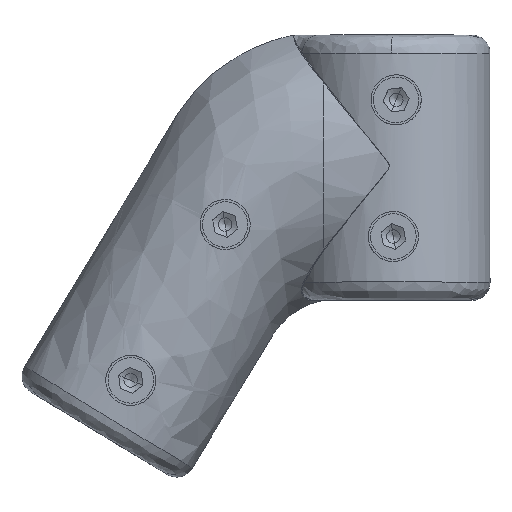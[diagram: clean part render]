
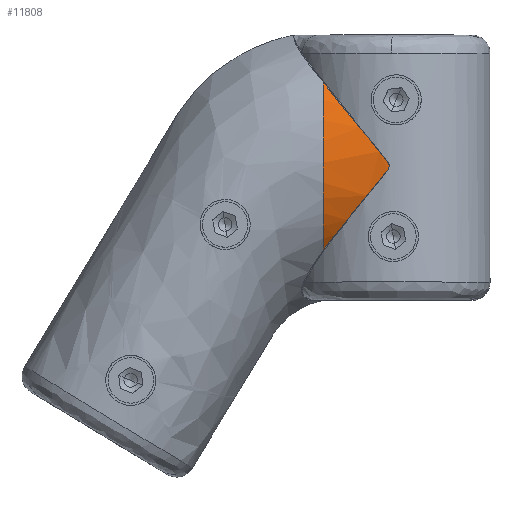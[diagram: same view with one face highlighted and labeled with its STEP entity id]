
A CAD part, top view. The second image highlights one B-rep face of the part: STEP entity #11808.
In plain terms, the highlighted free-form (B-spline) face has degree [3, 1] with [13, 2] control points.
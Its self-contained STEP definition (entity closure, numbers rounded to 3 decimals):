
#766 = CARTESIAN_POINT ( 'NONE',  ( -12.283, 87.694, -19.896 ) ) ;
#883 = CARTESIAN_POINT ( 'NONE',  ( -4.317, 87.883, -18.076 ) ) ;
#917 = CARTESIAN_POINT ( 'NONE',  ( -6.189, 89.882, -17.636 ) ) ;
#934 = CARTESIAN_POINT ( 'NONE',  ( -5.487, 85.949, -19.036 ) ) ;
#1108 = B_SPLINE_CURVE_WITH_KNOTS ( 'NONE', 3,
 ( #4477, #2037, #883, #934, #9243, #2138, #10279, #10435, #5649, #6848 ),
 .UNSPECIFIED., .F., .F.,
 ( 4, 3, 3, 4 ),
 ( 0., 0.243, 0.677, 1. ),
 .UNSPECIFIED. ) ;
#1233 = VERTEX_POINT ( 'NONE', #1428 ) ;
#1428 = CARTESIAN_POINT ( 'NONE',  ( -2.186, 91.404, -15.377 ) ) ;
#1838 = ORIENTED_EDGE ( 'NONE', *, *, #3225, .T. ) ;
#2037 = CARTESIAN_POINT ( 'NONE',  ( -3.206, 89.718, -16.844 ) ) ;
#2075 = CARTESIAN_POINT ( 'NONE',  ( -24.204, 83.227, -21.503 ) ) ;
#2122 = CARTESIAN_POINT ( 'NONE',  ( -3.979, 90.705, -16.513 ) ) ;
#2138 = CARTESIAN_POINT ( 'NONE',  ( -9.863, 78.718, -21.597 ) ) ;
#2247 = CARTESIAN_POINT ( 'NONE',  ( -30.065, 74.597, -19.72 ) ) ;
#2310 = CARTESIAN_POINT ( 'NONE',  ( -21.294, 59.829, -15.402 ) ) ;
#3215 = CARTESIAN_POINT ( 'NONE',  ( -9.49, 88.693, -18.919 ) ) ;
#3225 = EDGE_CURVE ( 'NONE', #1233, #13478, #1108, .T. ) ;
#3321 = CARTESIAN_POINT ( 'NONE',  ( -21.301, 59.824, -15.396 ) ) ;
#3444 = CARTESIAN_POINT ( 'NONE',  ( -31.598, 72.064, -18.67 ) ) ;
#3508 = CARTESIAN_POINT ( 'NONE',  ( -18.449, 93.792, -19.036 ) ) ;
#3561 = CARTESIAN_POINT ( 'NONE',  ( -15.51, 69.386, -20.812 ) ) ;
#3801 = CARTESIAN_POINT ( 'NONE',  ( -21.294, 59.829, -15.402 ) ) ;
#3833 = EDGE_LOOP ( 'NONE', ( #10025, #1838, #6979, #4229 ) ) ;
#3876 = B_SPLINE_SURFACE_WITH_KNOTS ( 'NONE', 3, 1, ( 
 ( #15186, #9256 ),
 ( #4534, #15346 ),
 ( #15401, #3444 ),
 ( #11757, #2247 ),
 ( #3561, #5659 ),
 ( #5723, #4644 ),
 ( #11862, #4687 ),
 ( #13989, #5773 ),
 ( #11711, #13000 ),
 ( #14096, #3508 ),
 ( #12943, #6952 ),
 ( #15292, #8052 ),
 ( #5820, #8155 ) ),
 .UNSPECIFIED., .F., .F., .F.,
 ( 4, 3, 3, 3, 4 ),
 ( 2, 2 ),
 ( 0.244, 0.365, 0.49, 0.659, 0.756 ),
 ( 0., 1.515 ),
 .UNSPECIFIED. ) ;
#4229 = ORIENTED_EDGE ( 'NONE', *, *, #7842, .T. ) ;
#4413 = CARTESIAN_POINT ( 'NONE',  ( -23.528, 76.16, -21.111 ) ) ;
#4477 = CARTESIAN_POINT ( 'NONE',  ( -2.186, 91.404, -15.377 ) ) ;
#4499 = CARTESIAN_POINT ( 'NONE',  ( -18.601, 64.278, -18.694 ) ) ;
#4534 = CARTESIAN_POINT ( 'NONE',  ( -20.084, 61.828, -17.161 ) ) ;
#4644 = CARTESIAN_POINT ( 'NONE',  ( -26.788, 80.013, -21.412 ) ) ;
#4687 = CARTESIAN_POINT ( 'NONE',  ( -25.097, 82.806, -21.491 ) ) ;
#5468 = FACE_OUTER_BOUND ( 'NONE', #3833, .T. ) ;
#5483 = CARTESIAN_POINT ( 'NONE',  ( -23.616, 83.605, -21.493 ) ) ;
#5631 = CARTESIAN_POINT ( 'NONE',  ( -24.357, 82.683, -21.498 ) ) ;
#5649 = CARTESIAN_POINT ( 'NONE',  ( -15.51, 69.386, -20.812 ) ) ;
#5659 = CARTESIAN_POINT ( 'NONE',  ( -28.472, 77.23, -20.812 ) ) ;
#5723 = CARTESIAN_POINT ( 'NONE',  ( -13.826, 72.169, -21.412 ) ) ;
#5773 = CARTESIAN_POINT ( 'NONE',  ( -22.825, 86.562, -21.597 ) ) ;
#5820 = CARTESIAN_POINT ( 'NONE',  ( -2.103, 91.541, -15.257 ) ) ;
#5890 = CARTESIAN_POINT ( 'NONE',  ( -20.018, 61.938, -17.23 ) ) ;
#6794 = B_SPLINE_CURVE_WITH_KNOTS ( 'NONE', 3,
 ( #13574, #7685, #8786, #12347 ),
 .UNSPECIFIED., .F., .F.,
 ( 4, 4 ),
 ( 0., 1. ),
 .UNSPECIFIED. ) ;
#6848 = CARTESIAN_POINT ( 'NONE',  ( -17.104, 66.753, -19.72 ) ) ;
#6952 = CARTESIAN_POINT ( 'NONE',  ( -17.247, 95.779, -18.05 ) ) ;
#6979 = ORIENTED_EDGE ( 'NONE', *, *, #14243, .T. ) ;
#7685 = CARTESIAN_POINT ( 'NONE',  ( -21.296, 59.826, -15.399 ) ) ;
#7842 = EDGE_CURVE ( 'NONE', #14779, #13109, #6794, .T. ) ;
#7865 = CARTESIAN_POINT ( 'NONE',  ( -24.166, 80.265, -21.446 ) ) ;
#7925 = CARTESIAN_POINT ( 'NONE',  ( -2.186, 91.404, -15.377 ) ) ;
#8052 = CARTESIAN_POINT ( 'NONE',  ( -16.107, 97.662, -16.777 ) ) ;
#8155 = CARTESIAN_POINT ( 'NONE',  ( -15.065, 99.385, -15.257 ) ) ;
#8292 = B_SPLINE_CURVE_WITH_KNOTS ( 'NONE', 3,
 ( #11773, #4499, #5890, #2310 ),
 .UNSPECIFIED., .F., .F.,
 ( 4, 4 ),
 ( 0., 1. ),
 .UNSPECIFIED. ) ;
#8317 = B_SPLINE_CURVE_WITH_KNOTS ( 'NONE', 3,
 ( #7925, #2122, #917, #15072, #3215, #766, #10319, #11530, #9172, #5483, #2075, #5631, #7865, #4413, #9226, #11577, #10421, #3321 ),
 .UNSPECIFIED., .F., .F.,
 ( 4, 1, 1, 2, 1, 1, 1, 1, 1, 2, 1, 2, 4 ),
 ( 0., 0.136, 0.159, 0.182, 0.349, 0.433, 0.475, 0.485, 0.496, 0.517, 0.644, 0.771, 1. ),
 .UNSPECIFIED. ) ;
#8786 = CARTESIAN_POINT ( 'NONE',  ( -21.299, 59.824, -15.397 ) ) ;
#9172 = CARTESIAN_POINT ( 'NONE',  ( -22.682, 84.032, -21.466 ) ) ;
#9226 = CARTESIAN_POINT ( 'NONE',  ( -22.942, 72.099, -20.271 ) ) ;
#9243 = CARTESIAN_POINT ( 'NONE',  ( -7.58, 82.491, -20.754 ) ) ;
#9256 = CARTESIAN_POINT ( 'NONE',  ( -34.345, 67.524, -15.272 ) ) ;
#10025 = ORIENTED_EDGE ( 'NONE', *, *, #15119, .F. ) ;
#10048 = CARTESIAN_POINT ( 'NONE',  ( -21.301, 59.824, -15.396 ) ) ;
#10279 = CARTESIAN_POINT ( 'NONE',  ( -12.136, 74.962, -21.491 ) ) ;
#10319 = CARTESIAN_POINT ( 'NONE',  ( -16.075, 86.367, -20.831 ) ) ;
#10421 = CARTESIAN_POINT ( 'NONE',  ( -21.657, 63.043, -17.3 ) ) ;
#10435 = CARTESIAN_POINT ( 'NONE',  ( -13.826, 72.169, -21.412 ) ) ;
#11530 = CARTESIAN_POINT ( 'NONE',  ( -20.589, 84.792, -21.355 ) ) ;
#11577 = CARTESIAN_POINT ( 'NONE',  ( -22.132, 66.527, -18.727 ) ) ;
#11711 = CARTESIAN_POINT ( 'NONE',  ( -7.58, 82.491, -20.754 ) ) ;
#11757 = CARTESIAN_POINT ( 'NONE',  ( -17.104, 66.753, -19.72 ) ) ;
#11773 = CARTESIAN_POINT ( 'NONE',  ( -17.104, 66.753, -19.72 ) ) ;
#11808 = ADVANCED_FACE ( 'NONE', ( #5468 ), #3876, .F. ) ;
#11862 = CARTESIAN_POINT ( 'NONE',  ( -12.136, 74.962, -21.491 ) ) ;
#12347 = CARTESIAN_POINT ( 'NONE',  ( -21.301, 59.824, -15.396 ) ) ;
#12943 = CARTESIAN_POINT ( 'NONE',  ( -4.285, 87.935, -18.05 ) ) ;
#13000 = CARTESIAN_POINT ( 'NONE',  ( -20.541, 90.335, -20.754 ) ) ;
#13109 = VERTEX_POINT ( 'NONE', #10048 ) ;
#13478 = VERTEX_POINT ( 'NONE', #13613 ) ;
#13574 = CARTESIAN_POINT ( 'NONE',  ( -21.294, 59.829, -15.402 ) ) ;
#13613 = CARTESIAN_POINT ( 'NONE',  ( -17.104, 66.753, -19.72 ) ) ;
#13989 = CARTESIAN_POINT ( 'NONE',  ( -9.863, 78.718, -21.597 ) ) ;
#14096 = CARTESIAN_POINT ( 'NONE',  ( -5.487, 85.949, -19.036 ) ) ;
#14243 = EDGE_CURVE ( 'NONE', #13478, #14779, #8292, .T. ) ;
#14779 = VERTEX_POINT ( 'NONE', #3801 ) ;
#15072 = CARTESIAN_POINT ( 'NONE',  ( -8.824, 88.931, -18.677 ) ) ;
#15119 = EDGE_CURVE ( 'NONE', #1233, #13109, #8317, .T. ) ;
#15186 = CARTESIAN_POINT ( 'NONE',  ( -21.384, 59.681, -15.272 ) ) ;
#15292 = CARTESIAN_POINT ( 'NONE',  ( -3.146, 89.818, -16.777 ) ) ;
#15346 = CARTESIAN_POINT ( 'NONE',  ( -33.046, 69.672, -17.161 ) ) ;
#15401 = CARTESIAN_POINT ( 'NONE',  ( -18.637, 64.22, -18.67 ) ) ;
